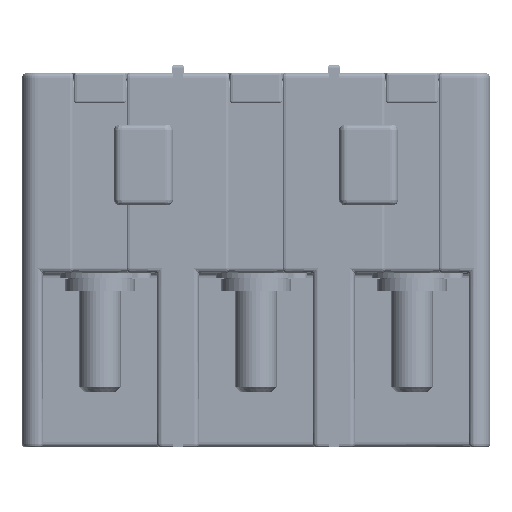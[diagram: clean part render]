
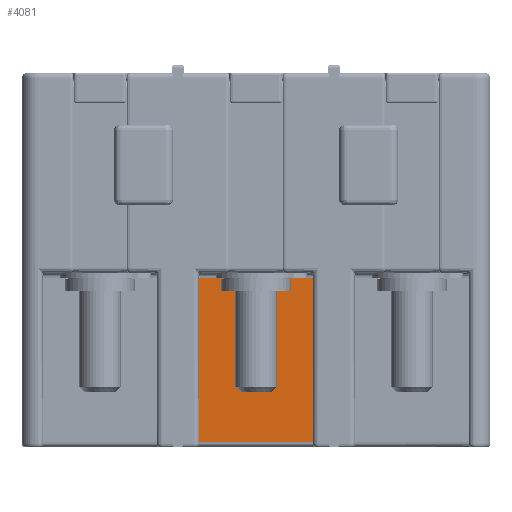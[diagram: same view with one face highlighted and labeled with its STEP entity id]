
A CAD part, front view. The second image highlights one B-rep face of the part: STEP entity #4081.
In plain terms, the highlighted planar face has unit normal (0, -1, 0) as drawn and (0, 0, -1) by its records, which use the part's own axes.
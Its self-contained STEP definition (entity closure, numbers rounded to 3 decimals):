
#4081=ADVANCED_FACE('',(#5874),#5352,.F.);
#5352=PLANE('',#27399);
#5874=FACE_OUTER_BOUND('',#6858,.T.);
#6858=EDGE_LOOP('',(#9546,#9547,#9548,#9549));
#9546=ORIENTED_EDGE('',*,*,#16570,.T.);
#9547=ORIENTED_EDGE('',*,*,#16571,.T.);
#9548=ORIENTED_EDGE('',*,*,#16572,.T.);
#9549=ORIENTED_EDGE('',*,*,#16573,.T.);
#14543=VERTEX_POINT('',#46231);
#14544=VERTEX_POINT('',#46232);
#14545=VERTEX_POINT('',#46234);
#14546=VERTEX_POINT('',#46236);
#16570=EDGE_CURVE('',#14543,#14544,#23542,.T.);
#16571=EDGE_CURVE('',#14544,#14545,#23543,.T.);
#16572=EDGE_CURVE('',#14545,#14546,#23544,.T.);
#16573=EDGE_CURVE('',#14546,#14543,#23545,.T.);
#23542=LINE('',#46230,#25931);
#23543=LINE('',#46233,#25932);
#23544=LINE('',#46235,#25933);
#23545=LINE('',#46237,#25934);
#25931=VECTOR('',#31956,1.);
#25932=VECTOR('',#31957,1.);
#25933=VECTOR('',#31958,1.);
#25934=VECTOR('',#31959,1.);
#27399=AXIS2_PLACEMENT_3D('',#46238,#31960,#31961);
#31956=DIRECTION('',(1.,0.,0.));
#31957=DIRECTION('',(0.,-1.,0.));
#31958=DIRECTION('',(-1.,0.,0.));
#31959=DIRECTION('',(0.,1.,0.));
#31960=DIRECTION('',(0.,0.,1.));
#31961=DIRECTION('',(1.,0.,0.));
#46230=CARTESIAN_POINT('',(83.75,50.,39.5));
#46231=CARTESIAN_POINT('',(39.25,50.,39.5));
#46232=CARTESIAN_POINT('',(62.25,50.,39.5));
#46233=CARTESIAN_POINT('',(62.25,17.5,39.5));
#46234=CARTESIAN_POINT('',(62.25,18.5,39.5));
#46235=CARTESIAN_POINT('',(38.25,18.5,39.5));
#46236=CARTESIAN_POINT('',(39.25,18.5,39.5));
#46237=CARTESIAN_POINT('',(39.25,51.,39.5));
#46238=CARTESIAN_POINT('',(83.75,30.,39.5));
